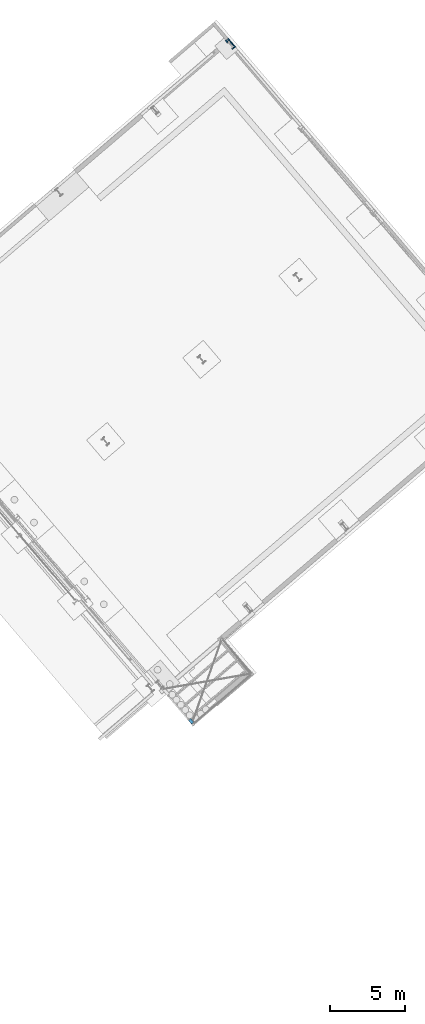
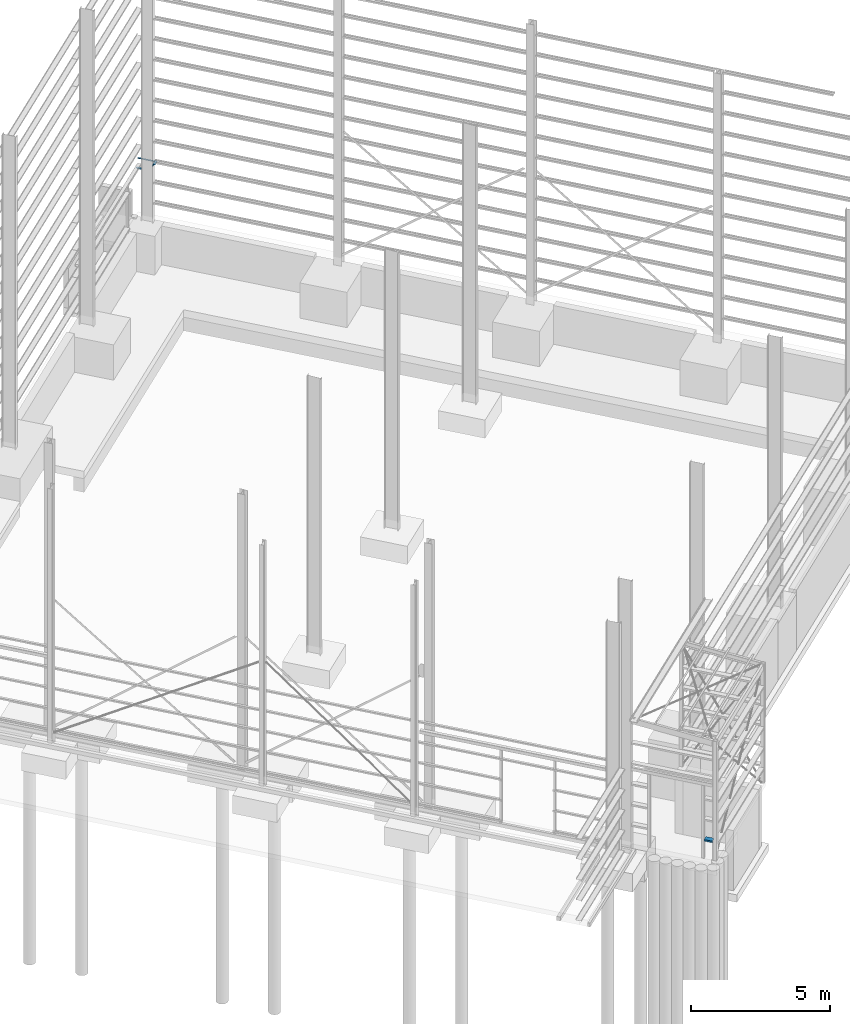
# One storey, part 34 of 41: 4 beams.
"""IFC2X3 building model written with IfcOpenShell, lengths in millimetres."""

from ifc_helpers import new_model, entity, si_unit, converted_unit, derived_unit, direction, frame, frame_2d, origin, place, context, subcontext, project, spatial, polyline, circle_curve, parameter, trimmed, segment, composite_curve, outline, extrude, material, type_object, element, save


model = new_model("IFC2X3")

# Units and contexts
model_context = context("Model", 3, precision=0.01, world=origin(), true_north=direction((6.123031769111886e-17, 1.0)))
body_context = subcontext(model_context, "Body", "Model", "MODEL_VIEW")
ifc_project = project(units=[si_unit("LENGTHUNIT", "METRE", prefix="MILLI"), si_unit("AREAUNIT", "SQUARE_METRE"), si_unit("VOLUMEUNIT", "CUBIC_METRE"), converted_unit("PLANEANGLEUNIT", "DEGREE", entity("IfcRatioMeasure", 0.017453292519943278), si_unit("PLANEANGLEUNIT", "RADIAN"), dimensions=[0, 0, 0, 0, 0, 0, 0]), si_unit("MASSUNIT", "GRAM", prefix="KILO"), derived_unit("MASSDENSITYUNIT", [(si_unit("MASSUNIT", "GRAM", prefix="KILO"), 1), (si_unit("LENGTHUNIT", "METRE"), -3)]), derived_unit("MOMENTOFINERTIAUNIT", [(si_unit("LENGTHUNIT", "METRE"), 4)]), si_unit("TIMEUNIT", "SECOND"), si_unit("FREQUENCYUNIT", "HERTZ"), si_unit("THERMODYNAMICTEMPERATUREUNIT", "DEGREE_CELSIUS"), derived_unit("THERMALTRANSMITTANCEUNIT", [(si_unit("MASSUNIT", "GRAM", prefix="KILO"), 1), (si_unit("THERMODYNAMICTEMPERATUREUNIT", "KELVIN"), -1), (si_unit("TIMEUNIT", "SECOND"), -3)]), derived_unit("VOLUMETRICFLOWRATEUNIT", [(si_unit("LENGTHUNIT", "METRE"), 3), (si_unit("TIMEUNIT", "SECOND"), -1)]), derived_unit("MASSFLOWRATEUNIT", [(si_unit("MASSUNIT", "GRAM", prefix="KILO"), 1), (si_unit("TIMEUNIT", "SECOND"), -1)]), derived_unit("ROTATIONALFREQUENCYUNIT", [(si_unit("TIMEUNIT", "SECOND"), -1)]), si_unit("ELECTRICCURRENTUNIT", "AMPERE"), si_unit("ELECTRICVOLTAGEUNIT", "VOLT"), si_unit("POWERUNIT", "WATT"), si_unit("FORCEUNIT", "NEWTON", prefix="KILO"), si_unit("ILLUMINANCEUNIT", "LUX"), si_unit("LUMINOUSFLUXUNIT", "LUMEN"), si_unit("LUMINOUSINTENSITYUNIT", "CANDELA"), derived_unit("USERDEFINED", [(si_unit("MASSUNIT", "GRAM", prefix="KILO"), -1), (si_unit("LENGTHUNIT", "METRE"), -2), (si_unit("TIMEUNIT", "SECOND"), 3), (si_unit("LUMINOUSFLUXUNIT", "LUMEN"), 1)]), derived_unit("SOUNDPOWERUNIT", [(si_unit("MASSUNIT", "GRAM", prefix="KILO"), 1), (si_unit("LENGTHUNIT", "METRE"), 2), (si_unit("TIMEUNIT", "SECOND"), -3)]), derived_unit("LINEARVELOCITYUNIT", [(si_unit("LENGTHUNIT", "METRE"), 1), (si_unit("TIMEUNIT", "SECOND"), -1)]), si_unit("PRESSUREUNIT", "PASCAL"), derived_unit("USERDEFINED", [(si_unit("LENGTHUNIT", "METRE"), -2), (si_unit("MASSUNIT", "GRAM", prefix="KILO"), 1), (si_unit("TIMEUNIT", "SECOND"), -2)]), derived_unit("LINEARFORCEUNIT", [(si_unit("MASSUNIT", "GRAM", prefix="KILO"), 1), (si_unit("LENGTHUNIT", "METRE"), 1), (si_unit("TIMEUNIT", "SECOND"), -2), (si_unit("LENGTHUNIT", "METRE"), -1)]), derived_unit("PLANARFORCEUNIT", [(si_unit("MASSUNIT", "GRAM", prefix="KILO"), 1), (si_unit("LENGTHUNIT", "METRE"), 1), (si_unit("TIMEUNIT", "SECOND"), -2), (si_unit("LENGTHUNIT", "METRE"), -2)])], contexts=[model_context])

# Site, building, storey
site_placement = place(None, frame((962.4174930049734, -6014.433753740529, 0.0), z_axis=(0.0, 0.0, 1.0), x_axis=(0.7601792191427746, 0.649713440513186, 0.0)))
site = spatial("IfcSite", under=ifc_project, at=site_placement, Name="Default", CompositionType="ELEMENT")
building_placement = place(site_placement, origin())
building = spatial("IfcBuilding", under=site, at=building_placement, CompositionType="ELEMENT")
storey_placement = place(building_placement, origin())
storey = spatial("IfcBuildingStorey", under=building, at=storey_placement, Name="Datum", CompositionType="ELEMENT", Elevation=0.0)

# Beams
ifc_material_1 = material(Name="Metal - Steel - 300 MPa")
beam_type_1 = type_object("IfcBeamType", Name="ADSK_AU_EA-Equal Angles (AS 3679_1):90x90x10EA", PredefinedType="NOTDEFINED")
beam_1_placement = place(building_placement, frame((185762.84583286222, 3659.0719178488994, 2000.0), z_axis=(0.0, 0.0, 1.0), x_axis=(0.0, 1.0, 0.0)))
element("IfcBeam", 1, at=beam_1_placement, inside=storey, type_object=beam_type_1, material=ifc_material_1, Name="ADSK_AU_EA-Equal Angles (AS 3679_1):90x90x10EA", ObjectType="ADSK_AU_EA-Equal Angles (AS 3679_1):90x90x10EA", context=body_context, shape_type="SweptSolid", body=[
    extrude(outline(composite_curve([segment(polyline([(-34.22222222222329, -34.22222222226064), (55.777777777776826, -34.22222222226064)]), True, "CONTINUOUS"), segment(polyline([(55.777777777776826, -34.22222222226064), (55.777777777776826, -29.222222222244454)]), True, "CONTINUOUS"), segment(trimmed(circle_curve(frame_2d((50.77777777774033, -29.222222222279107), x_axis=(1.0, 0.0)), 5.000000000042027), [parameter(0.0)], [parameter(89.99999999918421)], True, "PARAMETER"), True, "CONTINUOUS"), segment(polyline([(50.77777777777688, -24.222222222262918), (-16.222222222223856, -24.222222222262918)]), True, "CONTINUOUS"), segment(trimmed(circle_curve(frame_2d((-16.222222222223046, -16.222222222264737), x_axis=(0.0, -1.0)), 8.000000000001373), [parameter(270.0000000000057)], [parameter(0.0)], True, "PARAMETER"), False, "CONTINUOUS"), segment(polyline([(-24.22222222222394, -16.222222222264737), (-24.22222222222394, 50.777777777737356)]), True, "CONTINUOUS"), segment(trimmed(circle_curve(frame_2d((-29.222222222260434, 50.77777777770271), x_axis=(1.0, 0.0)), 5.000000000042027), [parameter(0.0)], [parameter(89.99999999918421)], True, "PARAMETER"), True, "CONTINUOUS"), segment(polyline([(-29.222222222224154, 55.77777777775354), (-34.22222222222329, 55.77777777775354)]), True, "CONTINUOUS"), segment(polyline([(-34.22222222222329, 55.77777777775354), (-34.22222222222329, -34.22222222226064)]), True, "CONTINUOUS")], self_intersect=False)), frame((0.0, 8.522222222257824, 55.777777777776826), z_axis=(1.0, 0.0, 0.0), x_axis=(0.0, 0.0, -1.0)), (0.0, 0.0, 1.0), 200.00000000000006),
])
beam_2_placement = place(building_placement, frame((185689.4048886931, 3115.2719178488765, 2376.392049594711)))
element("IfcBeam", 2, at=beam_2_placement, inside=storey, type_object=beam_type_1, material=ifc_material_1, Name="ADSK_AU_EA-Equal Angles (AS 3679_1):90x90x10EA", ObjectType="ADSK_AU_EA-Equal Angles (AS 3679_1):90x90x10EA", context=body_context, shape_type="SweptSolid", body=[
    extrude(outline(composite_curve([segment(polyline([(-34.22222222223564, -55.777777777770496), (-29.222222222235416, -55.777777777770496)]), True, "CONTINUOUS"), segment(trimmed(circle_curve(frame_2d((-29.222222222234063, -50.77777777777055), x_axis=(0.0, -1.0)), 4.99999999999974), [parameter(0.0)], [parameter(90.0000000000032)], True, "PARAMETER"), True, "CONTINUOUS"), segment(polyline([(-24.22222222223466, -50.77777777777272), (-24.22222222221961, 16.222222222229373)]), True, "CONTINUOUS"), segment(trimmed(circle_curve(frame_2d((-16.222222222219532, 16.2222222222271), x_axis=(-1.0, 0.0)), 8.000000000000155), [parameter(269.9999999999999)], [parameter(0.0)], True, "PARAMETER"), False, "CONTINUOUS"), segment(polyline([(-16.22222222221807, 24.222222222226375), (50.777777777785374, 24.222222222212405)]), True, "CONTINUOUS"), segment(trimmed(circle_curve(frame_2d((50.77777777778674, 29.22222222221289), x_axis=(0.0, -1.0)), 4.99999999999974), [parameter(0.0)], [parameter(90.0000000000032)], True, "PARAMETER"), True, "CONTINUOUS"), segment(polyline([(55.77777777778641, 29.222222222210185), (55.77777777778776, 34.22222222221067)]), True, "CONTINUOUS"), segment(polyline([(55.77777777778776, 34.22222222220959), (-34.222222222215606, 34.2222222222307)]), True, "CONTINUOUS"), segment(polyline([(-34.222222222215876, 34.22222222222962), (-34.22222222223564, -55.777777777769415)]), True, "CONTINUOUS")], self_intersect=False)), frame((-0.14468398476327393, 55.777777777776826, -8.522222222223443), z_axis=(1.0, 0.0, 0.0), x_axis=(0.0, 0.0, -1.0)), (0.0, 0.0, 1.0), 262.3000000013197),
])
ifc_material_2 = material(Name="Metal - Light Gauge")
beam_type_2 = type_object("IfcBeamType", Name="ADSK_AUS_Light Gauge-Joists:C20019", PredefinedType="NOTDEFINED")
beam_3_placement = place(building_placement, frame((154469.96020470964, -28943.428082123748, 829.9298734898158), z_axis=(0.0, 0.0, 1.0), x_axis=(0.0, -1.0, 0.0)))
element("IfcBeam", 3, at=beam_3_placement, inside=storey, type_object=beam_type_2, material=ifc_material_2, Name="ADSK_AUS_Light Gauge-Joists:C20019", ObjectType="ADSK_AUS_Light Gauge-Joists:C20019", context=body_context, shape_type="SweptSolid", body=[
    extrude(outline(composite_curve([segment(polyline([(-40.55184993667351, -101.50000000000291), (26.33184993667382, -101.50000000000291)]), True, "CONTINUOUS"), segment(trimmed(circle_curve(frame_2d((26.331849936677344, -98.44184993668), x_axis=(0.0, -1.0)), 3.058150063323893), [parameter(0.0)], [parameter(90.00000000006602)], True, "PARAMETER"), True, "CONTINUOUS"), segment(polyline([(29.390000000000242, -98.44184993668), (29.390000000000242, -78.50000000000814)]), True, "CONTINUOUS"), segment(polyline([(29.390000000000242, -78.49999999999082), (27.49000000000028, -78.49999999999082)]), True, "CONTINUOUS"), segment(polyline([(27.49000000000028, -78.49999999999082), (27.49000000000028, -98.02934993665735)]), True, "CONTINUOUS"), segment(trimmed(circle_curve(frame_2d((25.919349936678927, -98.02934993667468), x_axis=(1.0, 0.0)), 1.5706500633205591), [parameter(269.9999999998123)], [parameter(0.0)], True, "PARAMETER"), False, "CONTINUOUS"), segment(polyline([(25.919349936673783, -99.59999999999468), (-40.139349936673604, -99.59999999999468)]), True, "CONTINUOUS"), segment(trimmed(circle_curve(frame_2d((-40.13934993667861, -98.02934993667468), x_axis=(0.0, -1.0)), 1.5706500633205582), [parameter(269.9999999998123)], [parameter(0.0)], True, "PARAMETER"), False, "CONTINUOUS"), segment(polyline([(-41.709999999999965, -98.02934993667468), (-41.71000000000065, 98.02934993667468)]), True, "CONTINUOUS"), segment(trimmed(circle_curve(frame_2d((-40.13934993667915, 98.02934993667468), x_axis=(-1.0, 0.0)), 1.5706500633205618), [parameter(269.9999999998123)], [parameter(0.0)], True, "PARAMETER"), False, "CONTINUOUS"), segment(polyline([(-40.139349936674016, 99.5999999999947), (25.91934993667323, 99.5999999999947)]), True, "CONTINUOUS"), segment(trimmed(circle_curve(frame_2d((25.919349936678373, 98.02934993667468), x_axis=(0.0, 1.0)), 1.5706500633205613), [parameter(269.9999999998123)], [parameter(0.0)], True, "PARAMETER"), False, "CONTINUOUS"), segment(polyline([(27.489999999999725, 98.02934993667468), (27.489999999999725, 78.50000000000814)]), True, "CONTINUOUS"), segment(polyline([(27.489999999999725, 78.50000000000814), (29.389999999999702, 78.50000000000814)]), True, "CONTINUOUS"), segment(polyline([(29.389999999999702, 78.50000000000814), (29.389999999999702, 98.44184993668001)]), True, "CONTINUOUS"), segment(trimmed(circle_curve(frame_2d((26.33184993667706, 98.44184993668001), x_axis=(1.0, 0.0)), 3.058150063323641), [parameter(0.0)], [parameter(90.00000000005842)], True, "PARAMETER"), True, "CONTINUOUS"), segment(polyline([(26.331849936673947, 101.50000000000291), (-40.551849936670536, 101.50000000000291)]), True, "CONTINUOUS"), segment(trimmed(circle_curve(frame_2d((-40.55184993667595, 98.44184993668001), x_axis=(0.0, 1.0)), 3.0581500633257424), [parameter(0.0)], [parameter(90.00000000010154)], True, "PARAMETER"), True, "CONTINUOUS"), segment(polyline([(-43.61000000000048, 98.44184993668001), (-43.60999999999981, -98.44184993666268)]), True, "CONTINUOUS"), segment(trimmed(circle_curve(frame_2d((-40.55184993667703, -98.44184993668), x_axis=(-1.0, 0.0)), 3.058150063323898), [parameter(0.0)], [parameter(90.00000000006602)], True, "PARAMETER"), True, "CONTINUOUS")], self_intersect=False)), frame((-47.17035699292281, 101.50000000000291, -43.61000000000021), z_axis=(1.0, 0.0, 0.0), x_axis=(0.0, 0.0, -1.0)), (0.0, 0.0, 1.0), 314.17035699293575),
])
beam_type_3 = type_object("IfcBeamType", Name="ADSK_AU_EA-Equal Angles (AS 3679_1):65x65x6EA", PredefinedType="NOTDEFINED")
beam_4_placement = place(storey_placement, frame((185886.56020470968, 3599.8661346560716, 2376.392049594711), z_axis=(0.0, 0.0, 1.0), x_axis=(0.0, -1.0, 0.0)))
element("IfcBeam", 4, at=beam_4_placement, inside=storey, type_object=beam_type_3, material=ifc_material_1, Name="ADSK_AU_EA-Equal Angles (AS 3679_1):65x65x6EA", ObjectType="ADSK_AU_EA-Equal Angles (AS 3679_1):65x65x6EA", context=body_context, shape_type="SweptSolid", body=[
    extrude(outline(composite_curve([segment(polyline([(-24.333333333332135, -40.66666666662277), (-21.33333333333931, -40.66666666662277)]), True, "CONTINUOUS"), segment(trimmed(circle_curve(frame_2d((-21.333333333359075, -37.666666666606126), x_axis=(0.0, -1.0)), 3.0000000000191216), [parameter(0.0)], [parameter(89.99999999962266)], True, "PARAMETER"), True, "CONTINUOUS"), segment(polyline([(-18.333333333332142, -37.666666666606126), (-18.333333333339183, 12.333333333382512)]), True, "CONTINUOUS"), segment(trimmed(circle_curve(frame_2d((-12.333333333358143, 12.333333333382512), x_axis=(-1.0, 0.0)), 5.999999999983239), [parameter(269.99999999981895)], [parameter(0.0)], True, "PARAMETER"), False, "CONTINUOUS"), segment(polyline([(-12.333333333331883, 18.333333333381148), (37.66666666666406, 18.333333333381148)]), True, "CONTINUOUS"), segment(trimmed(circle_curve(frame_2d((37.666666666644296, 21.33333333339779), x_axis=(0.0, -1.0)), 3.0000000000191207), [parameter(0.0)], [parameter(89.99999999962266)], True, "PARAMETER"), True, "CONTINUOUS"), segment(polyline([(40.666666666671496, 21.33333333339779), (40.66666666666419, 24.333333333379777)]), True, "CONTINUOUS"), segment(polyline([(40.666666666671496, 24.333333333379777), (-24.333333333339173, 24.333333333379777)]), True, "CONTINUOUS"), segment(polyline([(-24.333333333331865, 24.333333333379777), (-24.333333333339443, -40.66666666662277)]), True, "CONTINUOUS")], self_intersect=False)), frame((-259.29999999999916, 40.66666666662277, -6.0333333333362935), z_axis=(1.0, 0.0, 0.0), x_axis=(0.0, 0.0, -1.0)), (0.0, 0.0, 1.0), 654.2254667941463),
])

save(model, "model.ifc")
